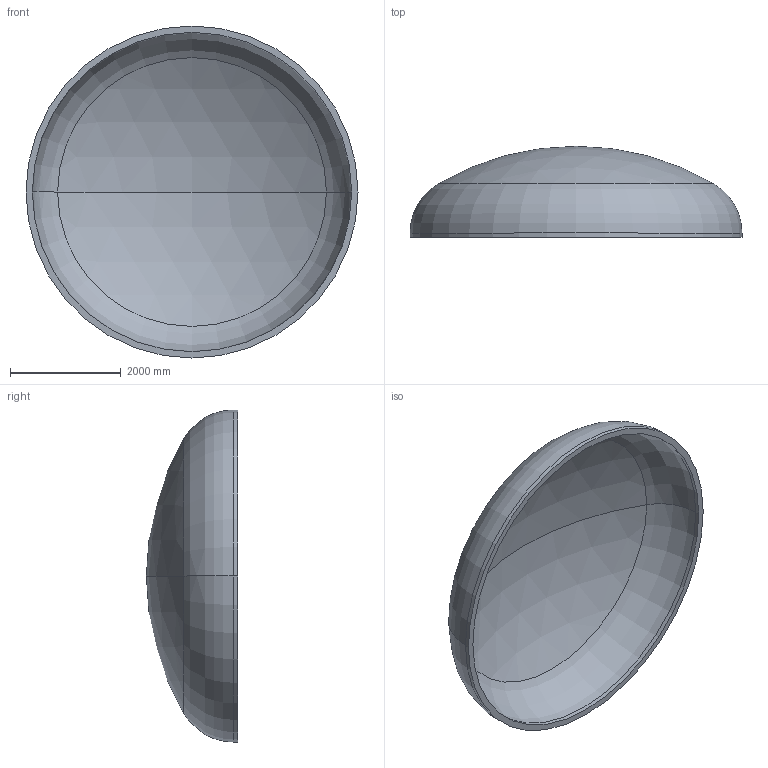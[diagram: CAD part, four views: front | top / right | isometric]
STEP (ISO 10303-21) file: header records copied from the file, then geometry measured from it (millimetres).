
FILE_DESCRIPTION (( 'STEP AP203' ), '1' );
FILE_NAME ('DIN 28013 Korbbogenform_-_Boden DIN 28013 - 6000 x 75 - I - s=114.step', '2016-07-04T10:39:16', ( '' ), ( '' ), 'SwSTEP 2.0', 'SolidWorks 2013', '' );
FILE_SCHEMA (( 'CONFIG_CONTROL_DESIGN' ));
Length unit declared in the file: millimetre
Products named in the file (1): DIN 28013 Korbbogenform_-_Boden DIN 28013 - 6000 x 75 - I - s=114
Bounding box: 6000 x 1646.83 x 6000 mm (x, y, z)
Volume: 4512868791.7 mm3; surface area: 81308347.3 mm2
Topology: 1 solids, 1 shells, 13 faces, 24 edges, 14 vertices
Faces by surface type: torus 4, cylinder 4, sphere 4, plane 1
Entity records: 407 total; most frequent: DIRECTION 72, CARTESIAN_POINT 52, ORIENTED_EDGE 48, AXIS2_PLACEMENT_3D 34, EDGE_CURVE 24, CIRCLE 20, VERTEX_POINT 14, EDGE_LOOP 14
